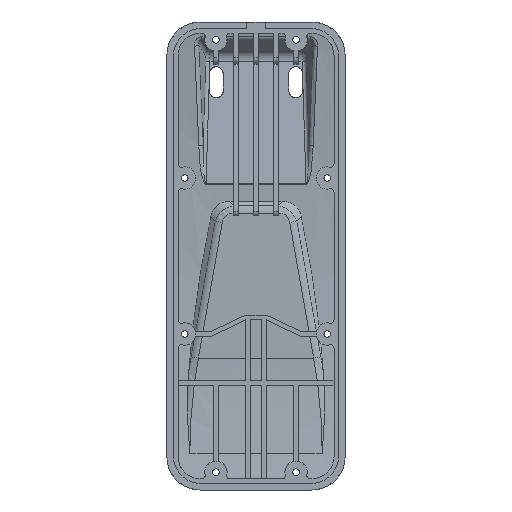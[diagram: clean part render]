
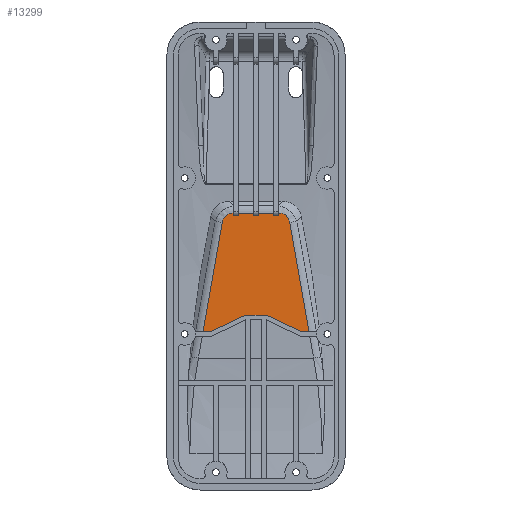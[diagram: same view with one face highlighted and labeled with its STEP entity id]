
A CAD part, front view. The second image highlights one B-rep face of the part: STEP entity #13299.
In plain terms, the highlighted planar face has unit normal (0, -1, 0).
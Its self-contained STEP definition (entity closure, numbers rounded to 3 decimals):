
#3855=DIRECTION('',(1.,0.,0.));
#3856=VECTOR('',#3855,2.);
#3857=CARTESIAN_POINT('',(8.,5.676,18.));
#3858=LINE('',#3857,#3856);
#3862=DIRECTION('',(0.,0.,-1.));
#3863=VECTOR('',#3862,1.272);
#3864=CARTESIAN_POINT('',(10.,5.676,19.272));
#3865=LINE('',#3864,#3863);
#3869=DIRECTION('',(1.,0.,0.));
#3870=VECTOR('',#3869,0.074);
#3871=CARTESIAN_POINT('',(10.,5.676,19.272));
#3872=LINE('',#3871,#3870);
#3876=CARTESIAN_POINT('',(10.074,5.676,19.272));
#3877=CARTESIAN_POINT('',(10.624,5.676,19.272));
#3878=CARTESIAN_POINT('',(11.639,5.676,19.147));
#3879=CARTESIAN_POINT('',(12.895,5.676,18.635));
#3880=CARTESIAN_POINT('',(13.927,5.676,17.801));
#3881=CARTESIAN_POINT('',(14.704,5.676,16.642));
#3882=CARTESIAN_POINT('',(15.036,5.676,15.606));
#3883=CARTESIAN_POINT('',(15.138,5.676,15.023));
#3888=DIRECTION('',(0.174,0.,-0.985));
#3889=VECTOR('',#3888,49.779);
#3890=CARTESIAN_POINT('',(15.138,5.676,15.023));
#3891=LINE('',#3890,#3889);
#3895=DIRECTION('',(-1.,0.,0.));
#3896=VECTOR('',#3895,3.336);
#3897=CARTESIAN_POINT('',(23.782,5.676,-34.));
#3898=LINE('',#3897,#3896);
#3902=DIRECTION('',(-0.905,0.,0.426));
#3903=VECTOR('',#3902,17.622);
#3904=CARTESIAN_POINT('',(20.447,5.676,-34.));
#3905=LINE('',#3904,#3903);
#3909=DIRECTION('',(-1.,0.,0.));
#3910=VECTOR('',#3909,9.);
#3911=CARTESIAN_POINT('',(4.5,5.676,-26.5));
#3912=LINE('',#3911,#3910);
#3916=DIRECTION('',(-0.905,0.,-0.426));
#3917=VECTOR('',#3916,17.622);
#3918=CARTESIAN_POINT('',(-4.5,5.676,-26.5));
#3919=LINE('',#3918,#3917);
#3923=DIRECTION('',(1.,0.,0.));
#3924=VECTOR('',#3923,3.336);
#3925=CARTESIAN_POINT('',(-23.782,5.676,-34.));
#3926=LINE('',#3925,#3924);
#3930=DIRECTION('',(0.174,0.,0.985));
#3931=VECTOR('',#3930,49.779);
#3932=CARTESIAN_POINT('',(-23.782,5.676,-34.));
#3933=LINE('',#3932,#3931);
#3937=CARTESIAN_POINT('',(-15.138,5.676,15.023));
#3938=CARTESIAN_POINT('',(-15.043,5.676,15.562));
#3939=CARTESIAN_POINT('',(-14.745,5.676,16.536));
#3940=CARTESIAN_POINT('',(-14.029,5.676,17.68));
#3941=CARTESIAN_POINT('',(-13.036,5.676,18.552));
#3942=CARTESIAN_POINT('',(-11.755,5.676,19.124));
#3943=CARTESIAN_POINT('',(-10.671,5.676,19.272));
#3944=CARTESIAN_POINT('',(-10.074,5.676,19.272));
#3949=DIRECTION('',(1.,0.,0.));
#3950=VECTOR('',#3949,0.074);
#3951=CARTESIAN_POINT('',(-10.074,5.676,19.272));
#3952=LINE('',#3951,#3950);
#3956=DIRECTION('',(0.,0.,-1.));
#3957=VECTOR('',#3956,1.272);
#3958=CARTESIAN_POINT('',(-10.,5.676,19.272));
#3959=LINE('',#3958,#3957);
#3963=DIRECTION('',(1.,0.,0.));
#3964=VECTOR('',#3963,2.);
#3965=CARTESIAN_POINT('',(-10.,5.676,18.));
#3966=LINE('',#3965,#3964);
#3970=DIRECTION('',(0.,0.,-1.));
#3971=VECTOR('',#3970,1.272);
#3972=CARTESIAN_POINT('',(-8.,5.676,19.272));
#3973=LINE('',#3972,#3971);
#3977=DIRECTION('',(1.,0.,0.));
#3978=VECTOR('',#3977,7.);
#3979=CARTESIAN_POINT('',(-8.,5.676,19.272));
#3980=LINE('',#3979,#3978);
#3984=DIRECTION('',(0.,0.,-1.));
#3985=VECTOR('',#3984,1.272);
#3986=CARTESIAN_POINT('',(-1.,5.676,19.272));
#3987=LINE('',#3986,#3985);
#3991=DIRECTION('',(1.,0.,0.));
#3992=VECTOR('',#3991,2.);
#3993=CARTESIAN_POINT('',(-1.,5.676,18.));
#3994=LINE('',#3993,#3992);
#3998=DIRECTION('',(0.,0.,-1.));
#3999=VECTOR('',#3998,1.272);
#4000=CARTESIAN_POINT('',(1.,5.676,19.272));
#4001=LINE('',#4000,#3999);
#4005=DIRECTION('',(1.,0.,0.));
#4006=VECTOR('',#4005,7.);
#4007=CARTESIAN_POINT('',(1.,5.676,19.272));
#4008=LINE('',#4007,#4006);
#4012=DIRECTION('',(0.,0.,-1.));
#4013=VECTOR('',#4012,1.272);
#4014=CARTESIAN_POINT('',(8.,5.676,19.272));
#4015=LINE('',#4014,#4013);
#8281=VERTEX_POINT('',#3876);
#8282=VERTEX_POINT('',#3883);
#8285=VERTEX_POINT('',#3937);
#8286=VERTEX_POINT('',#3944);
#8691=CARTESIAN_POINT('',(23.782,5.676,-34.));
#8692=VERTEX_POINT('',#8691);
#8699=CARTESIAN_POINT('',(-23.782,5.676,-34.));
#8700=VERTEX_POINT('',#8699);
#8709=CARTESIAN_POINT('',(4.5,5.676,-26.5));
#8710=CARTESIAN_POINT('',(-4.5,5.676,-26.5));
#8711=VERTEX_POINT('',#8709);
#8712=VERTEX_POINT('',#8710);
#8910=CARTESIAN_POINT('',(20.447,5.676,-34.));
#8911=VERTEX_POINT('',#8910);
#8920=CARTESIAN_POINT('',(-20.447,5.676,-34.));
#8921=VERTEX_POINT('',#8920);
#9140=CARTESIAN_POINT('',(8.,5.676,19.272));
#9141=VERTEX_POINT('',#9140);
#9142=CARTESIAN_POINT('',(10.,5.676,19.272));
#9143=VERTEX_POINT('',#9142);
#9144=CARTESIAN_POINT('',(-1.,5.676,19.272));
#9145=VERTEX_POINT('',#9144);
#9146=CARTESIAN_POINT('',(1.,5.676,19.272));
#9147=VERTEX_POINT('',#9146);
#9148=CARTESIAN_POINT('',(-10.,5.676,19.272));
#9149=VERTEX_POINT('',#9148);
#9150=CARTESIAN_POINT('',(-8.,5.676,19.272));
#9151=VERTEX_POINT('',#9150);
#9153=CARTESIAN_POINT('',(10.,5.676,18.));
#9155=VERTEX_POINT('',#9153);
#9156=CARTESIAN_POINT('',(8.,5.676,18.));
#9157=VERTEX_POINT('',#9156);
#9161=CARTESIAN_POINT('',(1.,5.676,18.));
#9163=VERTEX_POINT('',#9161);
#9164=CARTESIAN_POINT('',(-1.,5.676,18.));
#9165=VERTEX_POINT('',#9164);
#9169=CARTESIAN_POINT('',(-8.,5.676,18.));
#9171=VERTEX_POINT('',#9169);
#9172=CARTESIAN_POINT('',(-10.,5.676,18.));
#9173=VERTEX_POINT('',#9172);
#13254=CARTESIAN_POINT('',(-15.,5.676,20.));
#13255=DIRECTION('',(0.,-1.,0.));
#13256=DIRECTION('',(0.,0.,-1.));
#13257=AXIS2_PLACEMENT_3D('',#13254,#13255,#13256);
#13258=PLANE('',#13257);
#13259=ORIENTED_EDGE('',*,*,#12987,.T.);
#13260=ORIENTED_EDGE('',*,*,#13027,.F.);
#13262=ORIENTED_EDGE('',*,*,#13261,.T.);
#13264=ORIENTED_EDGE('',*,*,#13263,.T.);
#13266=ORIENTED_EDGE('',*,*,#13265,.T.);
#13268=ORIENTED_EDGE('',*,*,#13267,.T.);
#13270=ORIENTED_EDGE('',*,*,#13269,.T.);
#13272=ORIENTED_EDGE('',*,*,#13271,.T.);
#13274=ORIENTED_EDGE('',*,*,#13273,.T.);
#13276=ORIENTED_EDGE('',*,*,#13275,.F.);
#13278=ORIENTED_EDGE('',*,*,#13277,.T.);
#13280=ORIENTED_EDGE('',*,*,#13279,.T.);
#13282=ORIENTED_EDGE('',*,*,#13281,.T.);
#13284=ORIENTED_EDGE('',*,*,#13283,.T.);
#13286=ORIENTED_EDGE('',*,*,#13285,.T.);
#13288=ORIENTED_EDGE('',*,*,#13287,.F.);
#13290=ORIENTED_EDGE('',*,*,#13289,.T.);
#13291=ORIENTED_EDGE('',*,*,#13173,.T.);
#13292=ORIENTED_EDGE('',*,*,#13109,.T.);
#13293=ORIENTED_EDGE('',*,*,#13148,.F.);
#13295=ORIENTED_EDGE('',*,*,#13294,.T.);
#13296=ORIENTED_EDGE('',*,*,#12949,.T.);
#13297=EDGE_LOOP('',(#13259,#13260,#13262,#13264,#13266,#13268,#13270,#13272,
#13274,#13276,#13278,#13280,#13282,#13284,#13286,#13288,#13290,#13291,#13292,
#13293,#13295,#13296));
#13298=FACE_OUTER_BOUND('',#13297,.F.);
#3884=B_SPLINE_CURVE_WITH_KNOTS('',3,(#3876,#3877,#3878,#3879,#3880,#3881,#3882,
#3883),.UNSPECIFIED.,.F.,.F.,(4,1,1,1,1,4),(0.,0.2,0.4,0.6,0.8,1.),
.UNSPECIFIED.);
#3945=B_SPLINE_CURVE_WITH_KNOTS('',3,(#3937,#3938,#3939,#3940,#3941,#3942,#3943,
#3944),.UNSPECIFIED.,.F.,.F.,(4,1,1,1,1,4),(0.,0.2,0.4,0.6,0.8,1.),
.UNSPECIFIED.);
#12949=EDGE_CURVE('',#9141,#9157,#4015,.T.);
#12987=EDGE_CURVE('',#9157,#9155,#3858,.T.);
#13027=EDGE_CURVE('',#9143,#9155,#3865,.T.);
#13109=EDGE_CURVE('',#9165,#9163,#3994,.T.);
#13148=EDGE_CURVE('',#9147,#9163,#4001,.T.);
#13173=EDGE_CURVE('',#9145,#9165,#3987,.T.);
#13261=EDGE_CURVE('',#9143,#8281,#3872,.T.);
#13263=EDGE_CURVE('',#8281,#8282,#3884,.T.);
#13265=EDGE_CURVE('',#8282,#8692,#3891,.T.);
#13267=EDGE_CURVE('',#8692,#8911,#3898,.T.);
#13269=EDGE_CURVE('',#8911,#8711,#3905,.T.);
#13271=EDGE_CURVE('',#8711,#8712,#3912,.T.);
#13273=EDGE_CURVE('',#8712,#8921,#3919,.T.);
#13275=EDGE_CURVE('',#8700,#8921,#3926,.T.);
#13277=EDGE_CURVE('',#8700,#8285,#3933,.T.);
#13279=EDGE_CURVE('',#8285,#8286,#3945,.T.);
#13281=EDGE_CURVE('',#8286,#9149,#3952,.T.);
#13283=EDGE_CURVE('',#9149,#9173,#3959,.T.);
#13285=EDGE_CURVE('',#9173,#9171,#3966,.T.);
#13287=EDGE_CURVE('',#9151,#9171,#3973,.T.);
#13289=EDGE_CURVE('',#9151,#9145,#3980,.T.);
#13294=EDGE_CURVE('',#9147,#9141,#4008,.T.);
#13299=ADVANCED_FACE('',(#13298),#13258,.T.);
